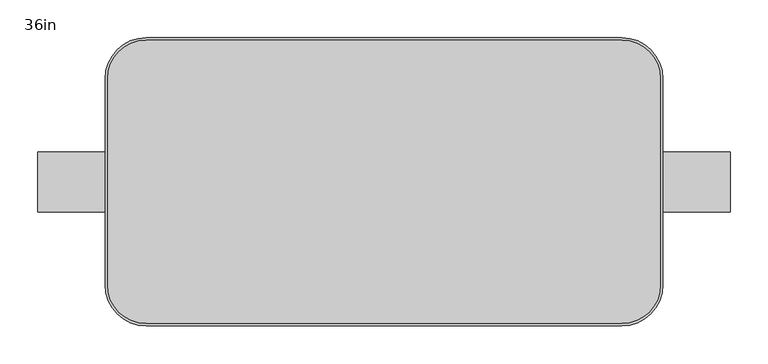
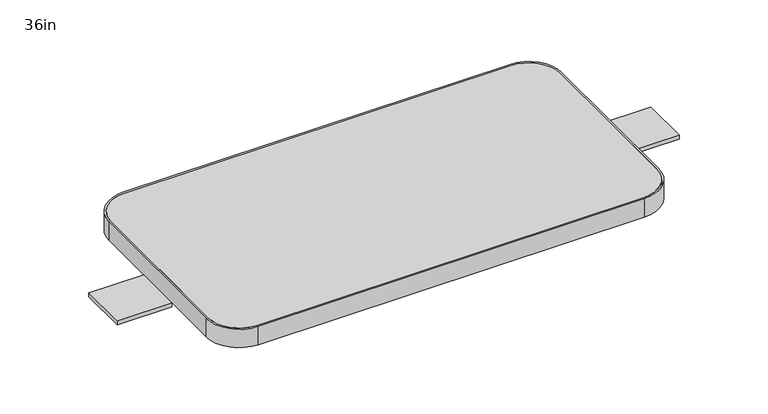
"""IFC4 building model written with IfcOpenShell, lengths in millimetres: furniture geometry, Steelcase - Answer Solution - Transaction Worksurface - Square Trim - 3mm Edge : 36in."""

from ifc_helpers import new_model, si_unit, point, frame, frame_2d, origin, place, context, project, spatial, polyline, circle_curve, trimmed, segment, composite_curve, outline, extrude, source, transform, mapped, element, save


def furniture_36in_3b2f66a0(model_context):
    return source(origin(), model_context, "Body", "SweptSolid", [
        extrude(outline(polyline([(88.9003876, 0.0), (88.9003876, -79.3748062), (0.0, -79.3748062), (0.0, 0.0), (88.9003876, 0.0)])), frame((0.0, 0.0, 1044.7273647), z_axis=(0.0, 0.0, 1.0), x_axis=(1.0, 0.0, 0.0)), (0.0, 0.0, 1.0), 7.340613),
        extrude(outline(polyline([(914.4, 0.0), (914.4, -79.3748062), (825.4996124, -79.3748062), (825.4996124, 0.0), (914.4, 0.0)])), frame((0.0, 0.0, 1044.7273647), z_axis=(0.0, 0.0, 1.0), x_axis=(1.0, 0.0, 0.0)), (0.0, 0.0, 1.0), 7.340613),
        extrude(outline(composite_curve([segment(trimmed(circle_curve(frame_2d((771.5248062, 96.8375)), 50.8), [point((771.5248062, 147.6375))], [point((822.3248062, 96.8375))], False, "CARTESIAN"), True, "CONTINUOUS"), segment(polyline([(822.3248062, 96.8375), (822.3248062, -176.2123062)]), True, "CONTINUOUS"), segment(trimmed(circle_curve(frame_2d((771.5248062, -176.2123062)), 50.8), [point((822.3248062, -176.2123062))], [point((771.5248062, -227.0123062))], False, "CARTESIAN"), True, "CONTINUOUS"), segment(polyline([(771.5248062, -227.0123062), (142.8751938, -227.0123062)]), True, "CONTINUOUS"), segment(trimmed(circle_curve(frame_2d((142.8751938, -176.2123062)), 50.8), [point((142.8751938, -227.0123062))], [point((92.0751938, -176.2123062))], False, "CARTESIAN"), True, "CONTINUOUS"), segment(polyline([(92.0751938, -176.2123062), (92.0751938, 96.8375)]), True, "CONTINUOUS"), segment(trimmed(circle_curve(frame_2d((142.8751938, 96.8375)), 50.8), [point((92.0751938, 96.8375))], [point((142.8751938, 147.6375))], False, "CARTESIAN"), True, "CONTINUOUS"), segment(polyline([(142.8751938, 147.6375), (771.5248062, 147.6375)]), True, "CONTINUOUS")], self_intersect=False)), frame((0.0, 0.0, 1052.0679777), z_axis=(0.0, 0.0, 1.0), x_axis=(1.0, 0.0, 0.0)), (0.0, 0.0, 1.0), 31.7500242),
        extrude(outline(composite_curve([segment(polyline([(771.5248062, -230.1871124), (142.8751938, -230.1871124)]), True, "CONTINUOUS"), segment(trimmed(circle_curve(frame_2d((142.8751938, -176.2123062)), 53.9748062), [point((142.8751938, -230.1871124))], [point((88.9003876, -176.2123062))], False, "CARTESIAN"), True, "CONTINUOUS"), segment(polyline([(88.9003876, -176.2123062), (88.9003876, 96.8375)]), True, "CONTINUOUS"), segment(trimmed(circle_curve(frame_2d((142.8751938, 96.8375)), 53.9748062), [point((88.9003876, 96.8375))], [point((142.8751938, 150.8123062))], False, "CARTESIAN"), True, "CONTINUOUS"), segment(polyline([(142.8751938, 150.8123062), (771.5248062, 150.8123062)]), True, "CONTINUOUS"), segment(trimmed(circle_curve(frame_2d((771.5248062, 96.8375)), 53.9748062), [point((771.5248062, 150.8123062))], [point((825.4996124, 96.8375))], False, "CARTESIAN"), True, "CONTINUOUS"), segment(polyline([(825.4996124, 96.8375), (825.4996124, -176.2123062)]), True, "CONTINUOUS"), segment(trimmed(circle_curve(frame_2d((771.5248062, -176.2123062)), 53.9748062), [point((825.4996124, -176.2123062))], [point((771.5248062, -230.1871124))], False, "CARTESIAN"), True, "CONTINUOUS")], self_intersect=False), holes=[composite_curve([segment(trimmed(circle_curve(frame_2d((142.8751938, 96.8375)), 50.8), [point((142.8751938, 147.6375))], [point((92.0751938, 96.8375))], True, "CARTESIAN"), True, "CONTINUOUS"), segment(polyline([(92.0751938, 96.8375), (92.0751938, -176.2123062)]), True, "CONTINUOUS"), segment(trimmed(circle_curve(frame_2d((142.8751938, -176.2123062)), 50.8), [point((92.0751938, -176.2123062))], [point((142.8751938, -227.0123062))], True, "CARTESIAN"), True, "CONTINUOUS"), segment(polyline([(142.8751938, -227.0123062), (771.5248062, -227.0123062)]), True, "CONTINUOUS"), segment(trimmed(circle_curve(frame_2d((771.5248062, -176.2123062)), 50.8), [point((771.5248062, -227.0123062))], [point((822.3248062, -176.2123062))], True, "CARTESIAN"), True, "CONTINUOUS"), segment(polyline([(822.3248062, -176.2123062), (822.3248062, 96.8375)]), True, "CONTINUOUS"), segment(trimmed(circle_curve(frame_2d((771.5248062, 96.8375)), 50.8), [point((822.3248062, 96.8375))], [point((771.5248062, 147.6375))], True, "CARTESIAN"), True, "CONTINUOUS"), segment(polyline([(771.5248062, 147.6375), (142.8751938, 147.6375)]), True, "CONTINUOUS")], self_intersect=False)]), frame((0.0, 0.0, 1052.0679777), z_axis=(0.0, 0.0, 1.0), x_axis=(1.0, 0.0, 0.0)), (0.0, 0.0, 1.0), 31.7500242),
    ])


if __name__ == "__main__":
    model = new_model("IFC4")
    model_context = context("Model", 3, world=origin())
    ifc_project = project(units=[si_unit("LENGTHUNIT", "METRE", prefix="MILLI")], contexts=[model_context])
    site = spatial("IfcSite", under=ifc_project)
    building = spatial("IfcBuilding", under=site)
    placement = place(None, origin())
    furniture_36in_shape = furniture_36in_3b2f66a0(model_context)
    element("IfcFurniture", 1, ObjectType="Steelcase - Answer Solution - Transaction Worksurface - Square Trim - 3mm Edge : 36in", at=placement, inside=building, context=model_context, shape_type="MappedRepresentation", body=[
        mapped(furniture_36in_shape, transform((0.0, 0.0, 0.0), x_axis=(1.0, 0.0, 0.0), y_axis=(0.0, 1.0, 0.0), z_axis=(0.0, 0.0, 1.0))),
    ])
    save(model, "model.ifc")
